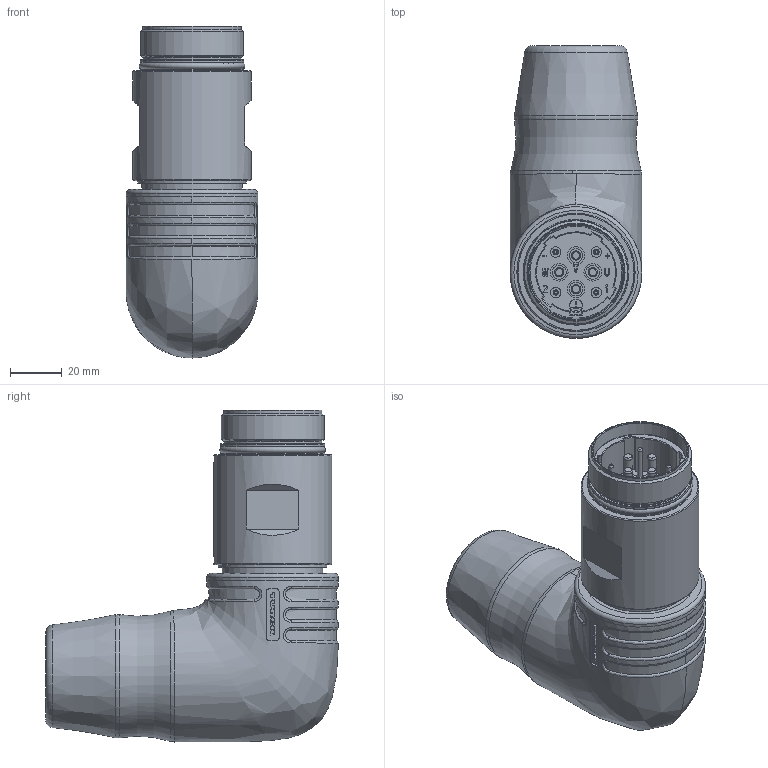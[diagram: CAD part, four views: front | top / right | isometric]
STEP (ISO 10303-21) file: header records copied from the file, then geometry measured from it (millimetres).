
FILE_DESCRIPTION(/* description */ ('PART (MM)'),/* implementation_level */ '2;1');
FILE_NAME(/* name */ 'L:\CAD Inventor\Workspace\Catalogs\CATALOG-TURCK CONNECTORS\HSWM 4800.stp',/* time_stamp */ '2022-02-02T06:50:30-06:00',/* author */ ('RSwans'),/* organization */ (''),/* preprocessor_version */ 'ST-DEVELOPER v16.5',/* originating_system */ 'Autodesk Inventor 2017',/* authorisation */ '');
FILE_SCHEMA (('AUTOMOTIVE_DESIGN { 1 0 10303 214 3 1 1 }'));
Length unit declared in the file: millimetre
Products named in the file (1): Part6
Bounding box: 51 x 113.5 x 128.7 mm (x, y, z)
Volume: 310352.3 mm3; surface area: 44348.4 mm2
Topology: 1 solids, 6 shells, 510 faces, 1372 edges, 929 vertices
Faces by surface type: plane 351, bspline 72, cylinder 55, cone 17, torus 15
Full cylindrical faces by diameter (mm): 1.99 x4, 2.2 x2, 3.6 x4, 4 x4, 4.86 x1, 5.14 x1, 5.35 x4, 6.8 x4, 31 x1, 38 x2, 38.2 x1, 39 x1, 40 x1, 40.3 x2, 42 x1, 45.8 x1, 51 x1
Entity records: 33540 total; most frequent: CARTESIAN_POINT 20871, ORIENTED_EDGE 2618, DIRECTION 2243, EDGE_CURVE 1309, VERTEX_POINT 924, AXIS2_PLACEMENT_3D 800, LINE 643, VECTOR 643
